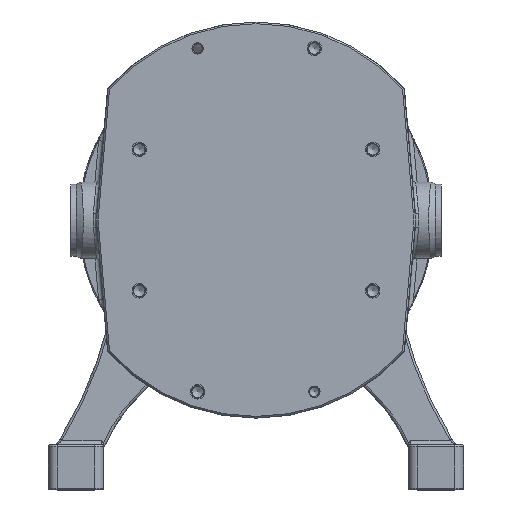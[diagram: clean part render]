
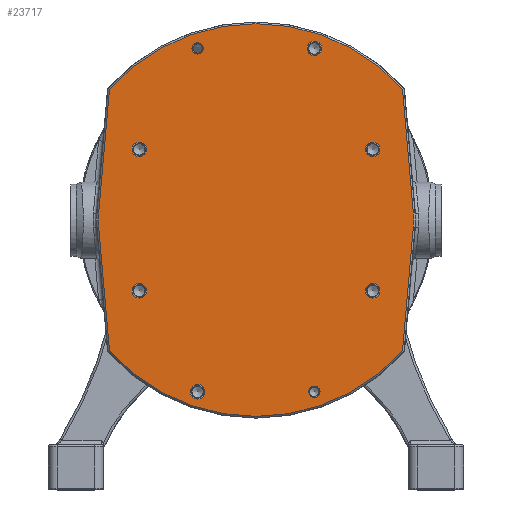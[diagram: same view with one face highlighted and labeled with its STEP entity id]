
A CAD part, top view. The second image highlights one B-rep face of the part: STEP entity #23717.
In plain terms, the highlighted planar face has unit normal (0, 0, 1).
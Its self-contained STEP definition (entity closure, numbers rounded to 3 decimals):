
#1562=FACE_BOUND('',#6032,.T.);
#1563=FACE_BOUND('',#6033,.T.);
#1564=FACE_BOUND('',#6034,.T.);
#1565=FACE_BOUND('',#6035,.T.);
#1566=FACE_BOUND('',#6036,.T.);
#1567=FACE_BOUND('',#6037,.T.);
#1568=FACE_BOUND('',#6038,.T.);
#1569=FACE_BOUND('',#6039,.T.);
#1943=CIRCLE('',#25573,175.);
#1945=CIRCLE('',#25576,3.5);
#1947=CIRCLE('',#25580,73.5);
#1949=CIRCLE('',#25584,3.5);
#1951=CIRCLE('',#25587,175.);
#1953=CIRCLE('',#25590,3.5);
#1955=CIRCLE('',#25594,73.5);
#1957=CIRCLE('',#25598,3.5);
#1962=CIRCLE('',#25610,5.053);
#1963=CIRCLE('',#25611,5.053);
#1964=CIRCLE('',#25612,6.5);
#1965=CIRCLE('',#25613,6.5);
#1966=CIRCLE('',#25614,6.5);
#1967=CIRCLE('',#25615,6.5);
#1968=CIRCLE('',#25616,6.5);
#1969=CIRCLE('',#25617,6.5);
#4515=FACE_OUTER_BOUND('',#6031,.T.);
#6031=EDGE_LOOP('',(#17001,#17002,#17003,#17004,#17005,#17006,#17007,#17008,
#17009,#17010,#17011,#17012));
#6032=EDGE_LOOP('',(#17013));
#6033=EDGE_LOOP('',(#17014));
#6034=EDGE_LOOP('',(#17015));
#6035=EDGE_LOOP('',(#17016));
#6036=EDGE_LOOP('',(#17017));
#6037=EDGE_LOOP('',(#17018));
#6038=EDGE_LOOP('',(#17019));
#6039=EDGE_LOOP('',(#17020));
#7630=LINE('',#38813,#8854);
#7634=LINE('',#38825,#8858);
#7640=LINE('',#38849,#8864);
#7644=LINE('',#38861,#8868);
#8854=VECTOR('',#29014,10.);
#8858=VECTOR('',#29026,10.);
#8864=VECTOR('',#29052,10.);
#8868=VECTOR('',#29064,10.);
#10244=VERTEX_POINT('',#38794);
#10247=VERTEX_POINT('',#38799);
#10248=VERTEX_POINT('',#38803);
#10250=VERTEX_POINT('',#38809);
#10252=VERTEX_POINT('',#38815);
#10254=VERTEX_POINT('',#38821);
#10256=VERTEX_POINT('',#38827);
#10258=VERTEX_POINT('',#38833);
#10260=VERTEX_POINT('',#38839);
#10262=VERTEX_POINT('',#38845);
#10264=VERTEX_POINT('',#38851);
#10266=VERTEX_POINT('',#38857);
#10275=VERTEX_POINT('',#38892);
#10276=VERTEX_POINT('',#38894);
#10277=VERTEX_POINT('',#38896);
#10278=VERTEX_POINT('',#38898);
#10279=VERTEX_POINT('',#38900);
#10280=VERTEX_POINT('',#38902);
#10281=VERTEX_POINT('',#38904);
#10282=VERTEX_POINT('',#38906);
#12738=EDGE_CURVE('',#10247,#10244,#1943,.T.);
#12741=EDGE_CURVE('',#10244,#10248,#1945,.T.);
#12744=EDGE_CURVE('',#10248,#10250,#7630,.T.);
#12747=EDGE_CURVE('',#10250,#10252,#1947,.T.);
#12750=EDGE_CURVE('',#10252,#10254,#7634,.T.);
#12753=EDGE_CURVE('',#10254,#10256,#1949,.T.);
#12756=EDGE_CURVE('',#10256,#10258,#1951,.T.);
#12759=EDGE_CURVE('',#10258,#10260,#1953,.T.);
#12762=EDGE_CURVE('',#10260,#10262,#7640,.T.);
#12765=EDGE_CURVE('',#10262,#10264,#1955,.T.);
#12768=EDGE_CURVE('',#10264,#10266,#7644,.T.);
#12770=EDGE_CURVE('',#10266,#10247,#1957,.T.);
#12784=EDGE_CURVE('',#10275,#10275,#1962,.T.);
#12785=EDGE_CURVE('',#10276,#10276,#1963,.T.);
#12786=EDGE_CURVE('',#10277,#10277,#1964,.T.);
#12787=EDGE_CURVE('',#10278,#10278,#1965,.T.);
#12788=EDGE_CURVE('',#10279,#10279,#1966,.T.);
#12789=EDGE_CURVE('',#10280,#10280,#1967,.T.);
#12790=EDGE_CURVE('',#10281,#10281,#1968,.T.);
#12791=EDGE_CURVE('',#10282,#10282,#1969,.T.);
#17001=ORIENTED_EDGE('',*,*,#12738,.F.);
#17002=ORIENTED_EDGE('',*,*,#12770,.F.);
#17003=ORIENTED_EDGE('',*,*,#12768,.F.);
#17004=ORIENTED_EDGE('',*,*,#12765,.F.);
#17005=ORIENTED_EDGE('',*,*,#12762,.F.);
#17006=ORIENTED_EDGE('',*,*,#12759,.F.);
#17007=ORIENTED_EDGE('',*,*,#12756,.F.);
#17008=ORIENTED_EDGE('',*,*,#12753,.F.);
#17009=ORIENTED_EDGE('',*,*,#12750,.F.);
#17010=ORIENTED_EDGE('',*,*,#12747,.F.);
#17011=ORIENTED_EDGE('',*,*,#12744,.F.);
#17012=ORIENTED_EDGE('',*,*,#12741,.F.);
#17013=ORIENTED_EDGE('',*,*,#12784,.T.);
#17014=ORIENTED_EDGE('',*,*,#12785,.T.);
#17015=ORIENTED_EDGE('',*,*,#12786,.T.);
#17016=ORIENTED_EDGE('',*,*,#12787,.T.);
#17017=ORIENTED_EDGE('',*,*,#12788,.T.);
#17018=ORIENTED_EDGE('',*,*,#12789,.T.);
#17019=ORIENTED_EDGE('',*,*,#12790,.T.);
#17020=ORIENTED_EDGE('',*,*,#12791,.T.);
#23198=PLANE('',#25609);
#23717=ADVANCED_FACE('',(#4515,#1562,#1563,#1564,#1565,#1566,#1567,#1568,
#1569),#23198,.F.);
#25573=AXIS2_PLACEMENT_3D('',#38801,#29001,#29002);
#25576=AXIS2_PLACEMENT_3D('',#38807,#29008,#29009);
#25580=AXIS2_PLACEMENT_3D('',#38819,#29020,#29021);
#25584=AXIS2_PLACEMENT_3D('',#38831,#29032,#29033);
#25587=AXIS2_PLACEMENT_3D('',#38837,#29039,#29040);
#25590=AXIS2_PLACEMENT_3D('',#38843,#29046,#29047);
#25594=AXIS2_PLACEMENT_3D('',#38855,#29058,#29059);
#25598=AXIS2_PLACEMENT_3D('',#38864,#29069,#29070);
#25609=AXIS2_PLACEMENT_3D('',#38891,#29100,#29101);
#25610=AXIS2_PLACEMENT_3D('',#38893,#29102,#29103);
#25611=AXIS2_PLACEMENT_3D('',#38895,#29104,#29105);
#25612=AXIS2_PLACEMENT_3D('',#38897,#29106,#29107);
#25613=AXIS2_PLACEMENT_3D('',#38899,#29108,#29109);
#25614=AXIS2_PLACEMENT_3D('',#38901,#29110,#29111);
#25615=AXIS2_PLACEMENT_3D('',#38903,#29112,#29113);
#25616=AXIS2_PLACEMENT_3D('',#38905,#29114,#29115);
#25617=AXIS2_PLACEMENT_3D('',#38907,#29116,#29117);
#29001=DIRECTION('center_axis',(0.,0.,-1.));
#29002=DIRECTION('ref_axis',(-0.748,0.664,0.));
#29008=DIRECTION('center_axis',(0.,0.,-1.));
#29009=DIRECTION('ref_axis',(0.917,0.4,0.));
#29014=DIRECTION('',(0.087,-0.996,0.));
#29020=DIRECTION('center_axis',(0.,0.,-1.));
#29021=DIRECTION('ref_axis',(1.,0.,0.));
#29026=DIRECTION('',(-0.087,-0.996,0.));
#29032=DIRECTION('center_axis',(0.,0.,-1.));
#29033=DIRECTION('ref_axis',(0.917,-0.4,0.));
#29039=DIRECTION('center_axis',(0.,0.,-1.));
#29040=DIRECTION('ref_axis',(0.748,-0.664,0.));
#29046=DIRECTION('center_axis',(0.,0.,-1.));
#29047=DIRECTION('ref_axis',(-0.917,-0.4,0.));
#29052=DIRECTION('',(-0.087,0.996,0.));
#29058=DIRECTION('center_axis',(0.,0.,-1.));
#29059=DIRECTION('ref_axis',(-1.,0.,0.));
#29064=DIRECTION('',(0.087,0.996,0.));
#29069=DIRECTION('center_axis',(0.,0.,-1.));
#29070=DIRECTION('ref_axis',(-0.917,0.4,0.));
#29100=DIRECTION('center_axis',(0.,0.,-1.));
#29101=DIRECTION('ref_axis',(0.,1.,0.));
#29102=DIRECTION('center_axis',(0.,0.,-1.));
#29103=DIRECTION('ref_axis',(-1.,0.,0.));
#29104=DIRECTION('center_axis',(0.,0.,-1.));
#29105=DIRECTION('ref_axis',(-1.,0.,0.));
#29106=DIRECTION('center_axis',(0.,0.,-1.));
#29107=DIRECTION('ref_axis',(-1.,0.,0.));
#29108=DIRECTION('center_axis',(0.,0.,-1.));
#29109=DIRECTION('ref_axis',(-1.,0.,0.));
#29110=DIRECTION('center_axis',(0.,0.,-1.));
#29111=DIRECTION('ref_axis',(-1.,0.,0.));
#29112=DIRECTION('center_axis',(0.,0.,-1.));
#29113=DIRECTION('ref_axis',(-1.,0.,0.));
#29114=DIRECTION('center_axis',(0.,0.,-1.));
#29115=DIRECTION('ref_axis',(-1.,0.,0.));
#29116=DIRECTION('center_axis',(0.,0.,-1.));
#29117=DIRECTION('ref_axis',(-1.,0.,0.));
#38794=CARTESIAN_POINT('',(129.759,54.42,27.));
#38799=CARTESIAN_POINT('',(-129.759,54.42,27.));
#38801=CARTESIAN_POINT('Origin',(0.,-63.,27.));
#38803=CARTESIAN_POINT('',(130.651,52.377,27.));
#38807=CARTESIAN_POINT('Origin',(127.164,52.072,27.));
#38809=CARTESIAN_POINT('',(140.185,-56.594,27.));
#38813=CARTESIAN_POINT('',(147.878,-144.535,27.));
#38815=CARTESIAN_POINT('',(140.185,-69.406,27.));
#38819=CARTESIAN_POINT('Origin',(66.964,-63.,27.));
#38821=CARTESIAN_POINT('',(130.651,-178.377,27.));
#38825=CARTESIAN_POINT('',(127.429,-215.208,27.));
#38827=CARTESIAN_POINT('',(129.759,-180.42,27.));
#38831=CARTESIAN_POINT('Origin',(127.164,-178.072,27.));
#38833=CARTESIAN_POINT('',(-129.759,-180.42,27.));
#38837=CARTESIAN_POINT('Origin',(0.,-63.,27.));
#38839=CARTESIAN_POINT('',(-130.651,-178.377,27.));
#38843=CARTESIAN_POINT('Origin',(-127.164,-178.072,27.));
#38845=CARTESIAN_POINT('',(-140.185,-69.406,27.));
#38849=CARTESIAN_POINT('',(-132.554,-156.624,27.));
#38851=CARTESIAN_POINT('',(-140.185,-56.594,27.));
#38855=CARTESIAN_POINT('Origin',(-66.964,-63.,27.));
#38857=CARTESIAN_POINT('',(-130.651,52.377,27.));
#38861=CARTESIAN_POINT('',(-142.753,-85.951,27.));
#38864=CARTESIAN_POINT('Origin',(-127.164,52.072,27.));
#38891=CARTESIAN_POINT('Origin',(0.,-239.5,27.));
#38892=CARTESIAN_POINT('',(-46.947,90.,27.));
#38893=CARTESIAN_POINT('Origin',(-52.,90.,27.));
#38894=CARTESIAN_POINT('',(57.053,-216.,27.));
#38895=CARTESIAN_POINT('Origin',(52.,-216.,27.));
#38896=CARTESIAN_POINT('',(58.5,90.,27.));
#38897=CARTESIAN_POINT('Origin',(52.,90.,27.));
#38898=CARTESIAN_POINT('',(-97.5,-126.,27.));
#38899=CARTESIAN_POINT('Origin',(-104.,-126.,27.));
#38900=CARTESIAN_POINT('',(110.5,0.,27.));
#38901=CARTESIAN_POINT('Origin',(104.,0.,27.));
#38902=CARTESIAN_POINT('',(-97.5,0.,27.));
#38903=CARTESIAN_POINT('Origin',(-104.,0.,27.));
#38904=CARTESIAN_POINT('',(110.5,-126.,27.));
#38905=CARTESIAN_POINT('Origin',(104.,-126.,27.));
#38906=CARTESIAN_POINT('',(-45.5,-216.,27.));
#38907=CARTESIAN_POINT('Origin',(-52.,-216.,27.));
